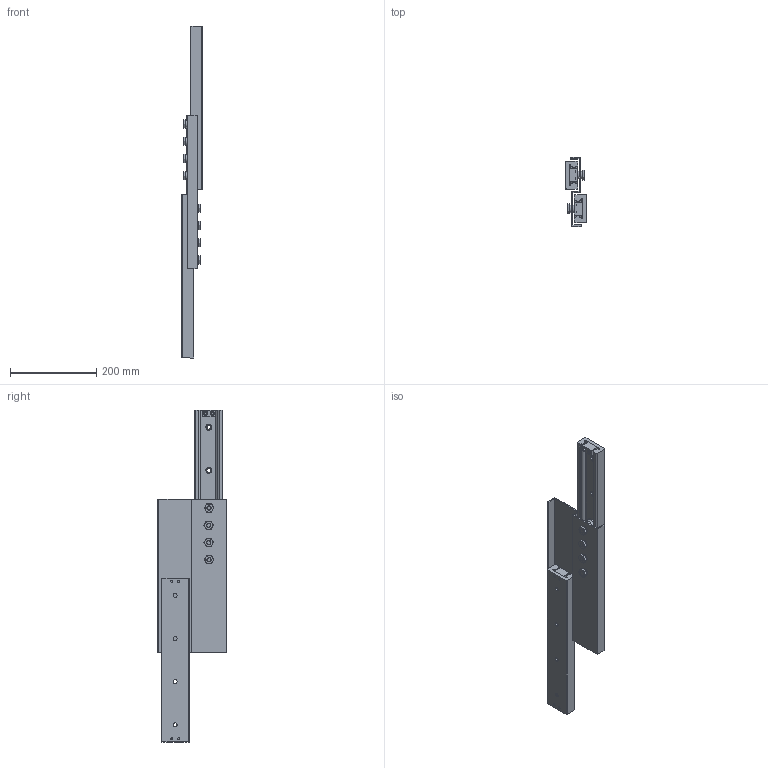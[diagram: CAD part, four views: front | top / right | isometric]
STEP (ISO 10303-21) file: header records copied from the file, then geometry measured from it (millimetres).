
FILE_DESCRIPTION (( 'STEP AP214' ), '1' );
FILE_NAME ('LSIM65DV.STEP', '2021-06-13T23:48:23', ( '' ), ( '' ), 'SwSTEP 2.0', 'SolidWorks 2019', '' );
FILE_SCHEMA (( 'AUTOMOTIVE_DESIGN' ));
Length unit declared in the file: millimetre
Products named in the file (4): LSIM65DVリテーナ; LSIM65DVレール; LSIM65DV; LSIM65ストッパー
Assembly tree (7 placements, depth 2):
  LSIM65DV
    LSIM65DVレール  x2
    LSIM65DVリテーナ
    LSIM65ストッパー  x4
Bounding box: 48 x 160 x 770 mm (x, y, z)
Volume: 1218474.8 mm3; surface area: 391902.4 mm2
Topology: 7 solids, 7 shells, 478 faces, 1052 edges, 668 vertices
Faces by surface type: plane 250, cylinder 116, cone 104, torus 8
Full cylindrical faces by diameter (mm): 4.2 x8, 5 x8, 8.5 x8, 9 x8, 9.5 x8, 10 x8, 14 x8, 16 x8, 18 x8, 35 x16
Entity records: 9456 total; most frequent: CARTESIAN_POINT 2498, DIRECTION 1378, ORIENTED_EDGE 1268, EDGE_CURVE 634, AXIS2_PLACEMENT_3D 592, EDGE_LOOP 476, VERTEX_POINT 432, FACE_OUTER_BOUND 400
